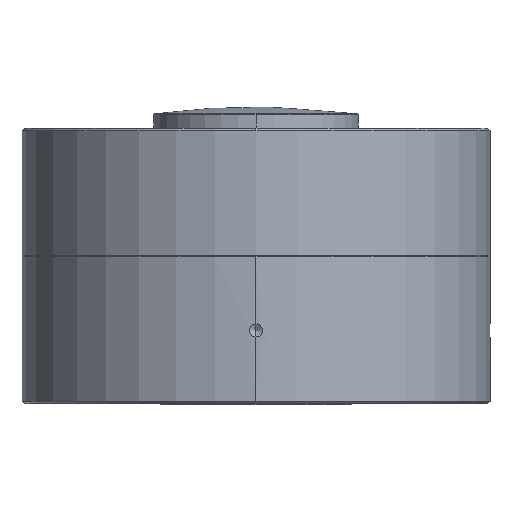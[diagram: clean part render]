
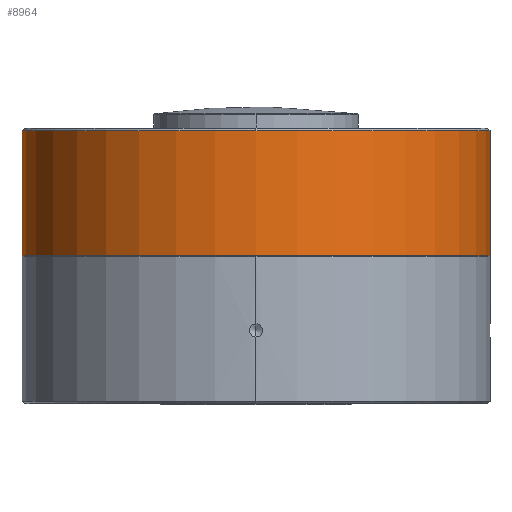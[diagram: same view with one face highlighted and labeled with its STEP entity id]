
A CAD part, left-side view. The second image highlights one B-rep face of the part: STEP entity #8964.
In plain terms, the highlighted cylindrical face has radius 139.649 mm (diameter 279.298 mm), a partial arc.
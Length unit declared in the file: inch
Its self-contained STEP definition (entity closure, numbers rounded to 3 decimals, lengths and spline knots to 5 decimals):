
#715 = CARTESIAN_POINT ( 'NONE',  ( 0., 5.498, -0.06 ) ) ;
#913 = LINE ( 'NONE', #914, #915 ) ;
#914 = CARTESIAN_POINT ( 'NONE',  ( 0., 5.498, -0.06 ) ) ;
#915 = VECTOR ( 'NONE', #916, 39.37008 ) ;
#916 = DIRECTION ( 'NONE',  ( 0., 0., -1. ) ) ;
#1355 = CIRCLE ( 'NONE', #1356, 5.498 ) ;
#1356 = AXIS2_PLACEMENT_3D ( 'NONE', #1357, #1358, #1359 ) ;
#1357 = CARTESIAN_POINT ( 'NONE',  ( 0., 0., -0.06 ) ) ;
#1358 = DIRECTION ( 'NONE',  ( 0., 0., -1. ) ) ;
#1359 = DIRECTION ( 'NONE',  ( 0., 1., 0. ) ) ;
#1646 = CARTESIAN_POINT ( 'NONE',  ( 0., 5.498, -3. ) ) ;
#1849 = VERTEX_POINT ( 'NONE', #715 ) ;
#2105 = EDGE_CURVE ( 'NONE', #1849, #3149, #913, .T. ) ;
#2708 = EDGE_CURVE ( 'NONE', #15670, #12541, #1355, .T. ) ;
#3121 = CIRCLE ( 'NONE', #3122, 5.498 ) ;
#3122 = AXIS2_PLACEMENT_3D ( 'NONE', #3124, #3125, #3126 ) ;
#3124 = CARTESIAN_POINT ( 'NONE',  ( 0., 0., -3. ) ) ;
#3125 = DIRECTION ( 'NONE',  ( 0., 0., 1. ) ) ;
#3126 = DIRECTION ( 'NONE',  ( 0., 1., 0. ) ) ;
#3149 = VERTEX_POINT ( 'NONE', #1646 ) ;
#5195 = EDGE_CURVE ( 'NONE', #3149, #15329, #3121, .T. ) ;
#5638 = ORIENTED_EDGE ( 'NONE', *, *, #5195, .T. ) ;
#5820 = FACE_OUTER_BOUND ( 'NONE', #8672, .T. ) ;
#5821 = CYLINDRICAL_SURFACE ( 'NONE', #5822, 5.498 ) ;
#5822 = AXIS2_PLACEMENT_3D ( 'NONE', #5823, #5824, #5825 ) ;
#5823 = CARTESIAN_POINT ( 'NONE',  ( 0., 0., -0.06 ) ) ;
#5824 = DIRECTION ( 'NONE',  ( 0., 0., -1. ) ) ;
#5825 = DIRECTION ( 'NONE',  ( 0., 1., 0. ) ) ;
#6248 = ORIENTED_EDGE ( 'NONE', *, *, #2105, .T. ) ;
#6846 = ORIENTED_EDGE ( 'NONE', *, *, #12803, .T. ) ;
#7461 = ORIENTED_EDGE ( 'NONE', *, *, #2708, .T. ) ;
#8068 = ORIENTED_EDGE ( 'NONE', *, *, #15390, .F. ) ;
#8273 = CARTESIAN_POINT ( 'NONE',  ( -5.498, 0., -0.06 ) ) ;
#8452 = CIRCLE ( 'NONE', #8453, 5.498 ) ;
#8453 = AXIS2_PLACEMENT_3D ( 'NONE', #8454, #8455, #8456 ) ;
#8454 = CARTESIAN_POINT ( 'NONE',  ( 0., 0., -0.06 ) ) ;
#8455 = DIRECTION ( 'NONE',  ( 0., 0., -1. ) ) ;
#8456 = DIRECTION ( 'NONE',  ( 0., 1., 0. ) ) ;
#8672 = EDGE_LOOP ( 'NONE', ( #8068, #7461, #6846, #6248, #5638 ) ) ;
#8964 = ADVANCED_FACE ( 'NONE', ( #5820 ), #5821, .T. ) ;
#10226 = CARTESIAN_POINT ( 'NONE',  ( 0., -5.498, -3. ) ) ;
#10339 = LINE ( 'NONE', #10340, #10341 ) ;
#10340 = CARTESIAN_POINT ( 'NONE',  ( 0., -5.498, -0.06 ) ) ;
#10341 = VECTOR ( 'NONE', #10342, 39.37008 ) ;
#10342 = DIRECTION ( 'NONE',  ( 0., 0., -1. ) ) ;
#11050 = CARTESIAN_POINT ( 'NONE',  ( 0., -5.498, -0.06 ) ) ;
#12541 = VERTEX_POINT ( 'NONE', #8273 ) ;
#12803 = EDGE_CURVE ( 'NONE', #12541, #1849, #8452, .T. ) ;
#15329 = VERTEX_POINT ( 'NONE', #10226 ) ;
#15390 = EDGE_CURVE ( 'NONE', #15670, #15329, #10339, .T. ) ;
#15670 = VERTEX_POINT ( 'NONE', #11050 ) ;
